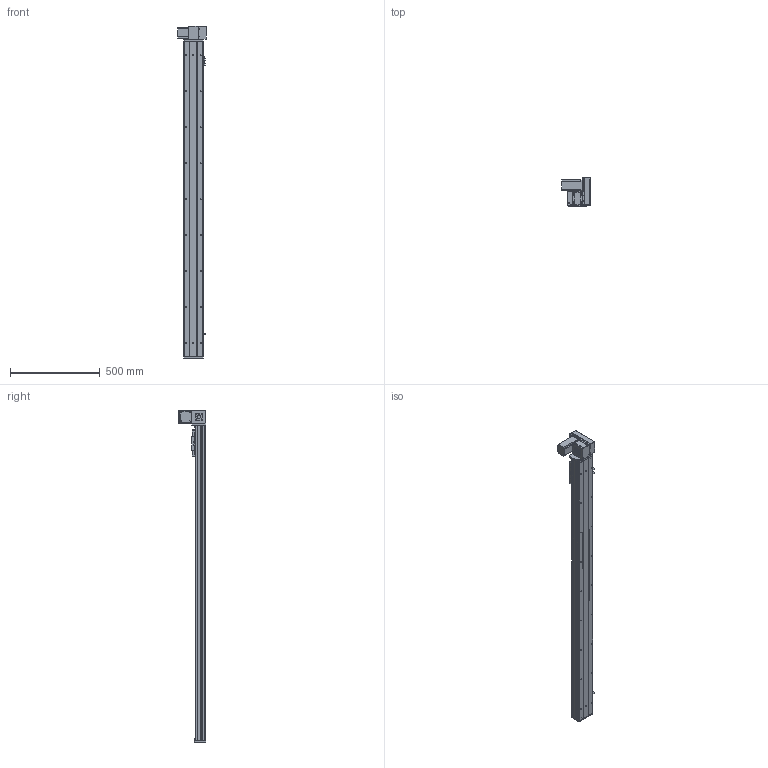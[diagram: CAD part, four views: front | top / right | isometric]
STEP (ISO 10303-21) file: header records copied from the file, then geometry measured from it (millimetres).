
FILE_DESCRIPTION (( 'STEP AP203' ), '1' );
FILE_NAME ('Y10CB-D90-S1500-UR-P400W.STEP', '2020-02-16T03:49:10', ( '微软用户' ), ( '微软中国' ), 'SwSTEP 2.0', 'SolidWorks 2017', '' );
FILE_SCHEMA (( 'CONFIG_CONTROL_DESIGN' ));
Length unit declared in the file: millimetre
Products named in the file (18): Y10B--々湍喘謫眊--666; 0B-埴倛裔啣; Y10B-耜蚾蟀諉啣----; 10CB-詩湍-; Y10CB- 掛极耜裔啣-毀---; 0CB-雄赽釱---; Y10C---詩湍揤啣; 0Cb-俋欶---; 00B-俋欶BM--; 10CB9-掛极; Y10B-々湍喘謫眊楊擘啣--; Y10CB-D90-S1500-UR-P400W; 10CB-耜裔; 0B-萇儂楊擘啣; Y135C-陔俋离換覜結え-; san松下电机400不带刹车----; Y100-135俋离換覜ん--; 0B-源倛裔啣
Assembly tree (21 placements, depth 2):
  Y10CB-D90-S1500-UR-P400W
    0CB-雄赽釱---
    0Cb-俋欶---
    Y10B-々湍喘謫眊楊擘啣--
    0B-萇儂楊擘啣
    san松下电机400不带刹车----
    0B-源倛裔啣
    0B-埴倛裔啣
    10CB-詩湍-
    Y10CB- 掛极耜裔啣-毀---  x2
    Y10C---詩湍揤啣  x2
    10CB9-掛极
    10CB-耜裔
    Y135C-陔俋离換覜結え-
    Y100-135俋离換覜ん--  x3
    Y10B--々湍喘謫眊--666
    Y10B-耜蚾蟀諉啣----
    00B-俋欶BM--
Bounding box: 157 x 155.5 x 1846 mm (x, y, z)
Volume: 4008554.8 mm3; surface area: 1851633.2 mm2
Topology: 21 solids, 21 shells, 1014 faces, 2723 edges, 1778 vertices
Faces by surface type: cylinder 509, plane 481, cone 24
Entity records: 31912 total; most frequent: CARTESIAN_POINT 5765, DIRECTION 5134, ORIENTED_EDGE 4916, EDGE_CURVE 2458, AXIS2_PLACEMENT_3D 1837, VERTEX_POINT 1604, VECTOR 1460, LINE 1460
